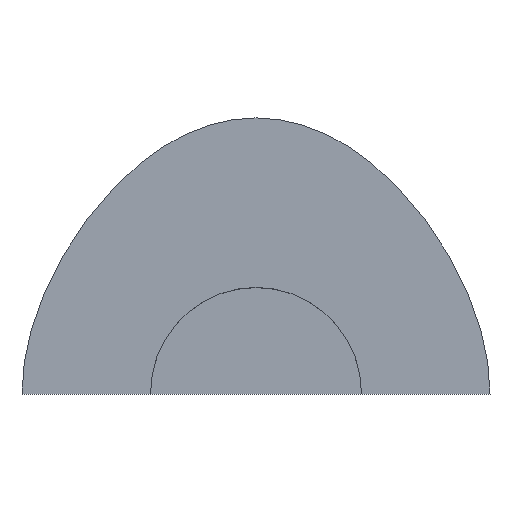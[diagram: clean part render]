
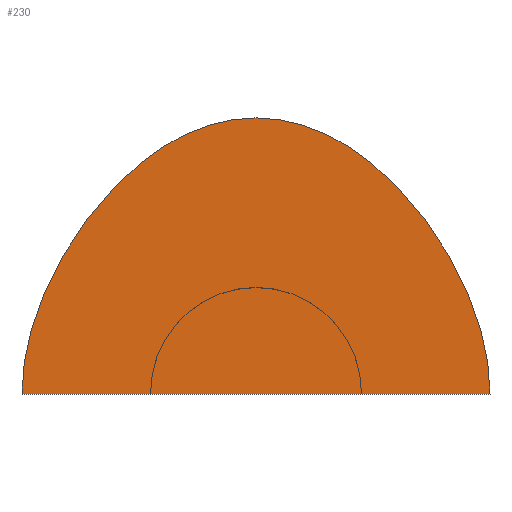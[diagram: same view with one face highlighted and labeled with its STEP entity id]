
A CAD part, top view. The second image highlights one B-rep face of the part: STEP entity #230.
In plain terms, the highlighted planar face has unit normal (0, 0, 1).
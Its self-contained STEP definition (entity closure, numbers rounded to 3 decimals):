
#193=CARTESIAN_POINT('Axis2P3D Location',(0.,53.182,0.)) ;
#198=CARTESIAN_POINT('Line Origine',(0.,0.,0.)) ;
#202=CARTESIAN_POINT('Vertex',(-111.,0.,0.)) ;
#204=CARTESIAN_POINT('Vertex',(111.,0.,0.)) ;
#208=CARTESIAN_POINT('Control Point',(0.,131.,0.)) ;
#209=CARTESIAN_POINT('Control Point',(34.341,131.,0.)) ;
#210=CARTESIAN_POINT('Control Point',(66.383,111.128,0.)) ;
#211=CARTESIAN_POINT('Control Point',(96.128,71.383,0.)) ;
#212=CARTESIAN_POINT('Control Point',(111.,34.341,0.)) ;
#213=CARTESIAN_POINT('Control Point',(111.,0.,0.)) ;
#214=CARTESIAN_POINT('Vertex',(0.,131.,0.)) ;
#218=CARTESIAN_POINT('Control Point',(0.,131.,0.)) ;
#219=CARTESIAN_POINT('Control Point',(-34.341,131.,0.)) ;
#220=CARTESIAN_POINT('Control Point',(-66.383,111.128,0.)) ;
#221=CARTESIAN_POINT('Control Point',(-96.128,71.383,0.)) ;
#222=CARTESIAN_POINT('Control Point',(-111.,34.341,0.)) ;
#223=CARTESIAN_POINT('Control Point',(-111.,0.,0.)) ;
#194=DIRECTION('Axis2P3D Direction',(0.,0.,1.)) ;
#195=DIRECTION('Axis2P3D XDirection',(1.,0.,0.)) ;
#199=DIRECTION('Vector Direction',(1.,0.,0.)) ;
#196=AXIS2_PLACEMENT_3D('Plane Axis2P3D',#193,#194,#195) ;
#226=ORIENTED_EDGE('',*,*,#206,.T.) ;
#227=ORIENTED_EDGE('',*,*,#216,.T.) ;
#228=ORIENTED_EDGE('',*,*,#224,.T.) ;
#200=VECTOR('Line Direction',#199,1.) ;
#230=ADVANCED_FACE('Fill.1',(#229),#197,.T.) ;
#207=B_SPLINE_CURVE_WITH_KNOTS('',5,(#208,#209,#210,#211,#212,#213),.UNSPECIFIED.,.F.,.U.,(6,6),(0.,171.703),.UNSPECIFIED.) ;
#217=B_SPLINE_CURVE_WITH_KNOTS('',5,(#218,#219,#220,#221,#222,#223),.UNSPECIFIED.,.F.,.U.,(6,6),(0.,171.703),.UNSPECIFIED.) ;
#206=EDGE_CURVE('',#203,#205,#201,.T.) ;
#216=EDGE_CURVE('',#205,#215,#207,.F.) ;
#224=EDGE_CURVE('',#215,#203,#217,.T.) ;
#225=EDGE_LOOP('',(#226,#227,#228)) ;
#229=FACE_OUTER_BOUND('',#225,.T.) ;
#201=LINE('Line',#198,#200) ;
#197=PLANE('',#196) ;
#203=VERTEX_POINT('',#202) ;
#205=VERTEX_POINT('',#204) ;
#215=VERTEX_POINT('',#214) ;
